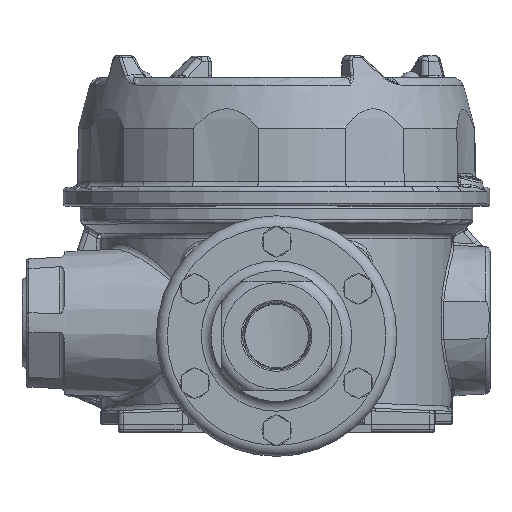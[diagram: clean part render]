
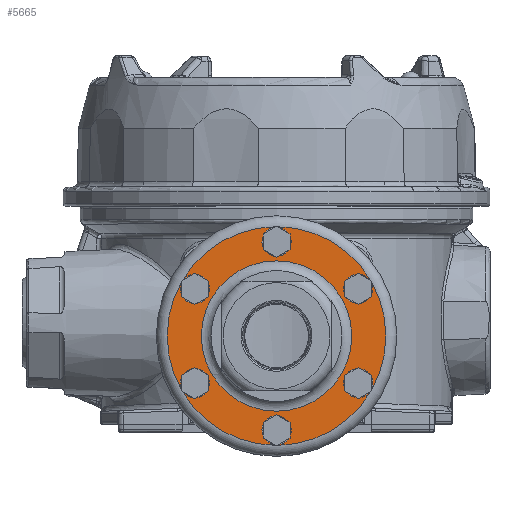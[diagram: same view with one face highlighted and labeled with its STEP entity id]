
A CAD part, top view. The second image highlights one B-rep face of the part: STEP entity #5665.
In plain terms, the highlighted planar face has unit normal (0, 0, 1).
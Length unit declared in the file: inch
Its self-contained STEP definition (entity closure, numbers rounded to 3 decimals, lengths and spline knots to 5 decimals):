
#257 = CARTESIAN_POINT ( 'NONE',  ( 0., 1.078, 5.25666 ) ) ;
#554 = AXIS2_PLACEMENT_3D ( 'NONE', #30770, #24600, #11108 ) ;
#913 = DIRECTION ( 'NONE',  ( -1., 0., 0. ) ) ;
#1260 = CIRCLE ( 'NONE', #37911, 0.109 ) ;
#1270 = CIRCLE ( 'NONE', #28791, 0.85938 ) ;
#1285 = FACE_OUTER_BOUND ( 'NONE', #20491, .T. ) ;
#1725 = FACE_BOUND ( 'NONE', #10586, .T. ) ;
#1974 = DIRECTION ( 'NONE',  ( 0., 0., -1. ) ) ;
#2553 = CARTESIAN_POINT ( 'NONE',  ( -0.93358, 0.539, 5.25666 ) ) ;
#3169 = CARTESIAN_POINT ( 'NONE',  ( -0.109, 1.078, 5.25666 ) ) ;
#3307 = DIRECTION ( 'NONE',  ( 0., 0., -1. ) ) ;
#3800 = DIRECTION ( 'NONE',  ( 0., 0., -1. ) ) ;
#4209 = EDGE_LOOP ( 'NONE', ( #34862 ) ) ;
#5665 = ADVANCED_FACE ( 'NONE', ( #8782, #22037, #35061, #1725, #25566, #29087, #1285, #28645 ), #41694, .F. ) ;
#6309 = CARTESIAN_POINT ( 'NONE',  ( 0., -1.078, 5.25666 ) ) ;
#6435 = AXIS2_PLACEMENT_3D ( 'NONE', #257, #3800, #913 ) ;
#7401 = CARTESIAN_POINT ( 'NONE',  ( -1.04258, -0.539, 5.25666 ) ) ;
#7723 = EDGE_CURVE ( 'NONE', #24401, #24401, #1260, .T. ) ;
#7851 = DIRECTION ( 'NONE',  ( -1., 0., 0. ) ) ;
#8546 = DIRECTION ( 'NONE',  ( -1., 0., 0. ) ) ;
#8782 = FACE_BOUND ( 'NONE', #38525, .T. ) ;
#10221 = CARTESIAN_POINT ( 'NONE',  ( 0.82458, 0.539, 5.25666 ) ) ;
#10586 = EDGE_LOOP ( 'NONE', ( #11999 ) ) ;
#11108 = DIRECTION ( 'NONE',  ( -1., 0., 0. ) ) ;
#11301 = VERTEX_POINT ( 'NONE', #24130 ) ;
#11567 = CARTESIAN_POINT ( 'NONE',  ( -1.04258, 0.539, 5.25666 ) ) ;
#11999 = ORIENTED_EDGE ( 'NONE', *, *, #14508, .T. ) ;
#12042 = DIRECTION ( 'NONE',  ( 0., 0., -1. ) ) ;
#13249 = EDGE_LOOP ( 'NONE', ( #31445 ) ) ;
#13467 = CIRCLE ( 'NONE', #38194, 0.109 ) ;
#13940 = CIRCLE ( 'NONE', #554, 1.25 ) ;
#14508 = EDGE_CURVE ( 'NONE', #18196, #18196, #13467, .T. ) ;
#14746 = CIRCLE ( 'NONE', #39447, 0.109 ) ;
#15485 = DIRECTION ( 'NONE',  ( 0., 0., -1. ) ) ;
#16042 = CARTESIAN_POINT ( 'NONE',  ( 0., 0., 5.25666 ) ) ;
#16240 = EDGE_CURVE ( 'NONE', #35225, #35225, #31131, .T. ) ;
#16271 = DIRECTION ( 'NONE',  ( 0., 0., -1. ) ) ;
#18196 = VERTEX_POINT ( 'NONE', #7401 ) ;
#18964 = ORIENTED_EDGE ( 'NONE', *, *, #29890, .T. ) ;
#20198 = DIRECTION ( 'NONE',  ( -1., 0., 0. ) ) ;
#20491 = EDGE_LOOP ( 'NONE', ( #33679 ) ) ;
#22037 = FACE_BOUND ( 'NONE', #39393, .T. ) ;
#23210 = CARTESIAN_POINT ( 'NONE',  ( 0.93358, 0.539, 5.25666 ) ) ;
#23341 = CIRCLE ( 'NONE', #25448, 0.109 ) ;
#24130 = CARTESIAN_POINT ( 'NONE',  ( -0.85938, 0., 5.25666 ) ) ;
#24401 = VERTEX_POINT ( 'NONE', #11567 ) ;
#24600 = DIRECTION ( 'NONE',  ( 0., 0., -1. ) ) ;
#25448 = AXIS2_PLACEMENT_3D ( 'NONE', #38561, #12042, #8546 ) ;
#25566 = FACE_BOUND ( 'NONE', #4209, .T. ) ;
#25567 = EDGE_CURVE ( 'NONE', #43593, #43593, #14746, .T. ) ;
#26028 = ORIENTED_EDGE ( 'NONE', *, *, #25567, .T. ) ;
#26193 = DIRECTION ( 'NONE',  ( 0., 0., -1. ) ) ;
#26230 = DIRECTION ( 'NONE',  ( -1., 0., 0. ) ) ;
#26585 = VERTEX_POINT ( 'NONE', #3169 ) ;
#26903 = ORIENTED_EDGE ( 'NONE', *, *, #29173, .T. ) ;
#27221 = AXIS2_PLACEMENT_3D ( 'NONE', #42130, #35291, #32410 ) ;
#27651 = CARTESIAN_POINT ( 'NONE',  ( -1.25, 0., 5.25666 ) ) ;
#28274 = EDGE_LOOP ( 'NONE', ( #18964 ) ) ;
#28645 = FACE_BOUND ( 'NONE', #13249, .T. ) ;
#28791 = AXIS2_PLACEMENT_3D ( 'NONE', #16042, #16271, #26230 ) ;
#29024 = CARTESIAN_POINT ( 'NONE',  ( -0.109, -1.078, 5.25666 ) ) ;
#29087 = FACE_BOUND ( 'NONE', #28274, .T. ) ;
#29173 = EDGE_CURVE ( 'NONE', #36306, #36306, #23341, .T. ) ;
#29890 = EDGE_CURVE ( 'NONE', #26585, #26585, #41681, .T. ) ;
#30770 = CARTESIAN_POINT ( 'NONE',  ( 0., 0., 5.25666 ) ) ;
#31131 = CIRCLE ( 'NONE', #39625, 0.109 ) ;
#31440 = EDGE_CURVE ( 'NONE', #11301, #11301, #1270, .T. ) ;
#31445 = ORIENTED_EDGE ( 'NONE', *, *, #31440, .T. ) ;
#31852 = EDGE_CURVE ( 'NONE', #41575, #41575, #13940, .T. ) ;
#32410 = DIRECTION ( 'NONE',  ( -1., 0., 0. ) ) ;
#33679 = ORIENTED_EDGE ( 'NONE', *, *, #31852, .F. ) ;
#34718 = ORIENTED_EDGE ( 'NONE', *, *, #16240, .T. ) ;
#34862 = ORIENTED_EDGE ( 'NONE', *, *, #7723, .T. ) ;
#35061 = FACE_BOUND ( 'NONE', #40514, .T. ) ;
#35225 = VERTEX_POINT ( 'NONE', #29024 ) ;
#35291 = DIRECTION ( 'NONE',  ( 0., 0., -1. ) ) ;
#35740 = CARTESIAN_POINT ( 'NONE',  ( -0.93358, -0.539, 5.25666 ) ) ;
#36306 = VERTEX_POINT ( 'NONE', #37169 ) ;
#36887 = DIRECTION ( 'NONE',  ( -1., 0., 0. ) ) ;
#37169 = CARTESIAN_POINT ( 'NONE',  ( 0.82458, -0.539, 5.25666 ) ) ;
#37911 = AXIS2_PLACEMENT_3D ( 'NONE', #2553, #26193, #20198 ) ;
#38194 = AXIS2_PLACEMENT_3D ( 'NONE', #35740, #1974, #42158 ) ;
#38525 = EDGE_LOOP ( 'NONE', ( #26028 ) ) ;
#38561 = CARTESIAN_POINT ( 'NONE',  ( 0.93358, -0.539, 5.25666 ) ) ;
#39393 = EDGE_LOOP ( 'NONE', ( #26903 ) ) ;
#39447 = AXIS2_PLACEMENT_3D ( 'NONE', #23210, #3307, #36887 ) ;
#39625 = AXIS2_PLACEMENT_3D ( 'NONE', #6309, #15485, #7851 ) ;
#40514 = EDGE_LOOP ( 'NONE', ( #34718 ) ) ;
#41575 = VERTEX_POINT ( 'NONE', #27651 ) ;
#41681 = CIRCLE ( 'NONE', #6435, 0.109 ) ;
#41694 = PLANE ( 'NONE',  #27221 ) ;
#42130 = CARTESIAN_POINT ( 'NONE',  ( 1.25, 0., 5.25666 ) ) ;
#42158 = DIRECTION ( 'NONE',  ( -1., 0., 0. ) ) ;
#43593 = VERTEX_POINT ( 'NONE', #10221 ) ;
